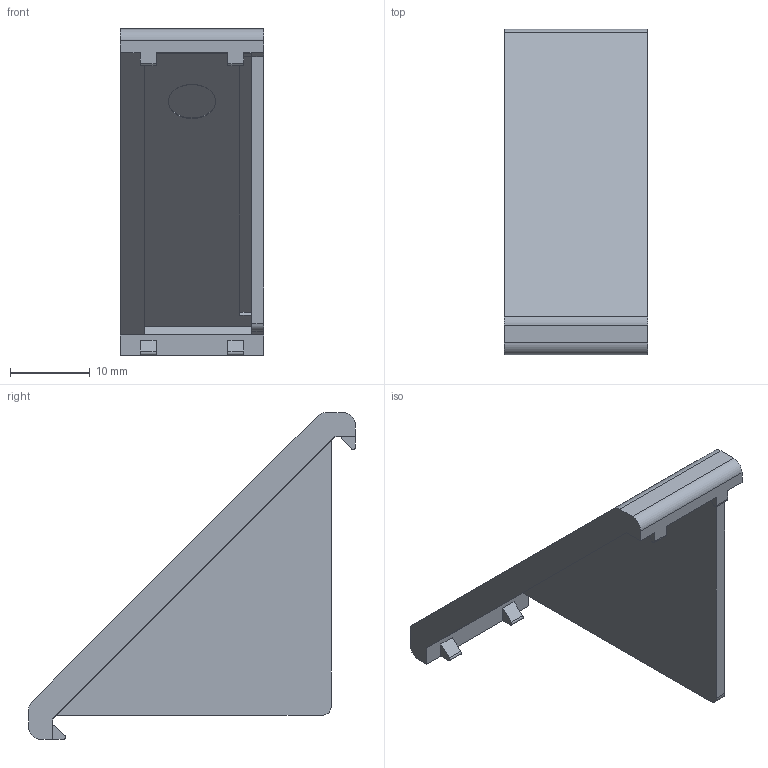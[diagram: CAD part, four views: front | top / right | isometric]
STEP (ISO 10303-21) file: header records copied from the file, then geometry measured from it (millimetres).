
FILE_DESCRIPTION(/* description */ ('STEP AP214'),/* implementation_level */ '2;1');
FILE_NAME(/* name */ '093WA202',/* time_stamp */ '2023-08-28T15:18:10+02:00',/* author */ ('License CC BY-ND 4.0'),/* organization */ ('CADENAS'),/* preprocessor_version */ 'ST-DEVELOPER v19.3',/* originating_system */ 'PARTsolutions',/* authorisation */ ' ');
FILE_SCHEMA (('FEATURE_BASED_PROCESS_PLANNING','AUTOMOTIVE_DESIGN {1 0 10303 214 3 1 1}'));
Length unit declared in the file: millimetre
Products named in the file (2): 093WA202; 093WA202-2
Assembly tree (1 placements, depth 2):
  093WA202
    093WA202-2
Bounding box: 18 x 41.04 x 41.04 mm (x, y, z)
Volume: 3403.1 mm3; surface area: 4035 mm2
Topology: 1 solids, 1 shells, 44 faces, 124 edges, 83 vertices
Faces by surface type: plane 34, cylinder 10
Full cylindrical faces by diameter (mm): 6 x1
Entity records: 1451 total; most frequent: CARTESIAN_POINT 250, ORIENTED_EDGE 244, DIRECTION 234, EDGE_CURVE 122, LINE 102, VECTOR 102, VERTEX_POINT 82, AXIS2_PLACEMENT_3D 66
